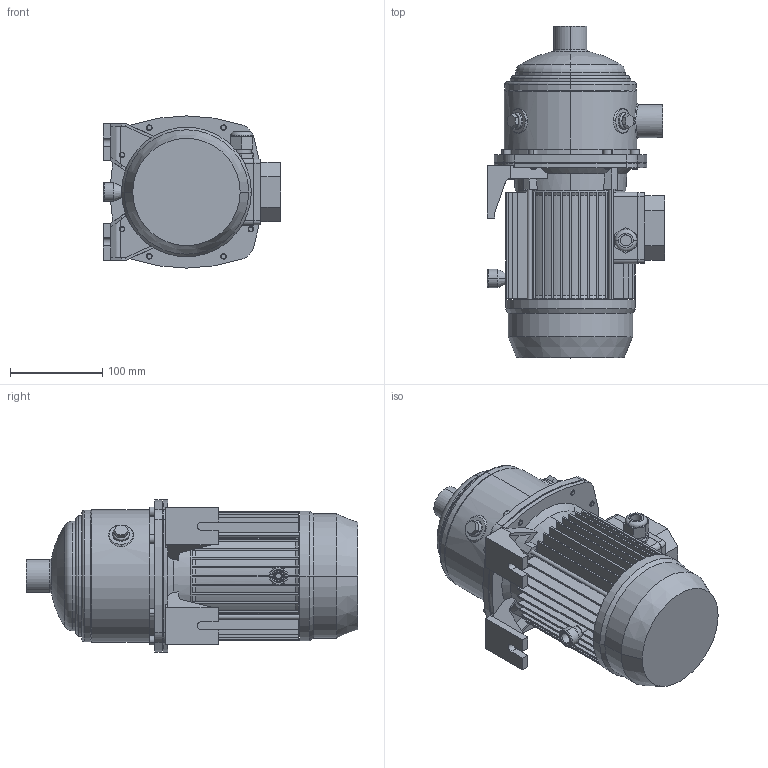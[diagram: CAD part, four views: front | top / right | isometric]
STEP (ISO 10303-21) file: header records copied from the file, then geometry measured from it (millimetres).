
FILE_DESCRIPTION((''),'2;1');
FILE_NAME('MATRIX_3-2T_0_45_ASM','2011-10-10T',('Utente'),('"Ebara Pumps Europe +39.444.706811"'),'PRO/ENGINEER BY PARAMETRIC TECHNOLOGY CORPORATION, 2009360','PRO/ENGINEER BY PARAMETRIC TECHNOLOGY CORPORATION, 2009360','');
FILE_SCHEMA(('AUTOMOTIVE_DESIGN { 1 0 10303 214 1 1 1 1 }'));
Length unit declared in the file: millimetre
Products named in the file (5): CORPO_POMPA_MATRIX_3-2_3; SUPPORTO_MATRIX_MEC_71; MEC_71; 72228; MATRIX_3-2T_0_45_ASM
Assembly tree (4 placements, depth 2):
  MATRIX_3-2T_0_45_ASM
    CORPO_POMPA_MATRIX_3-2_3
    SUPPORTO_MATRIX_MEC_71
    MEC_71
    72228
Bounding box: 192 x 359.8 x 165 mm (x, y, z)
Volume: 3597017.6 mm3; surface area: 460073.7 mm2
Topology: 4 solids, 4 shells, 677 faces, 1632 edges, 1010 vertices
Faces by surface type: plane 355, cylinder 184, cone 106, torus 28, sphere 2, bspline 2
Entity records: 26311 total; most frequent: CARTESIAN_POINT 4393, DIRECTION 3464, ORIENTED_EDGE 3264, EDGE_CURVE 1632, PRESENTATION_STYLE_ASSIGNMENT 1585, STYLED_ITEM 1585, CURVE_STYLE 1582, AXIS2_PLACEMENT_3D 1322
